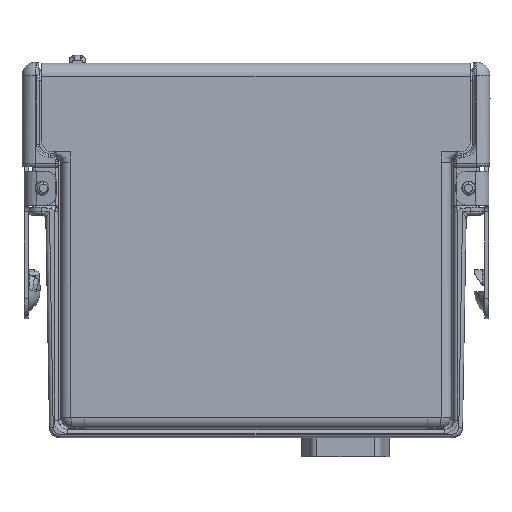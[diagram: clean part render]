
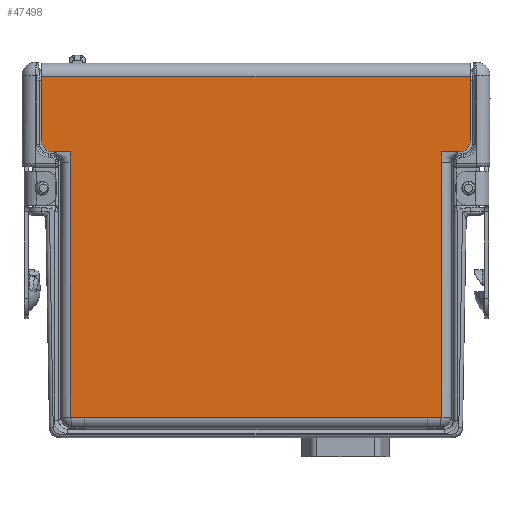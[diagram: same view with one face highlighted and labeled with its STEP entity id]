
A CAD part, left-side view. The second image highlights one B-rep face of the part: STEP entity #47498.
In plain terms, the highlighted planar face has unit normal (-1, 0, 0).
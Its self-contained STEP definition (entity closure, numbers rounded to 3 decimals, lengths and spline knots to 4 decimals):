
#45321=DIRECTION('',(0.,0.,-1.));
#45322=VECTOR('',#45321,0.476);
#45323=CARTESIAN_POINT('',(-0.4475,1.5895,2.676));
#45324=LINE('',#45323,#45322);
#45325=DIRECTION('',(0.,0.,1.));
#45326=VECTOR('',#45325,0.476);
#45327=CARTESIAN_POINT('',(-0.4475,-1.5895,2.2));
#45328=LINE('',#45327,#45326);
#45329=DIRECTION('',(0.,0.,-1.));
#45330=VECTOR('',#45329,0.079);
#45331=CARTESIAN_POINT('',(-0.4475,-1.3765,2.12));
#45332=LINE('',#45331,#45330);
#45333=DIRECTION('',(0.,1.,0.));
#45334=VECTOR('',#45333,0.105);
#45335=CARTESIAN_POINT('',(-0.4475,-1.3765,0.146));
#45336=LINE('',#45335,#45334);
#45337=DIRECTION('',(0.,1.,0.));
#45338=VECTOR('',#45337,0.105);
#45339=CARTESIAN_POINT('',(-0.4475,1.2715,0.146));
#45340=LINE('',#45339,#45338);
#45341=DIRECTION('',(0.,0.,1.));
#45342=VECTOR('',#45341,0.079);
#45343=CARTESIAN_POINT('',(-0.4475,1.3765,2.041));
#45344=LINE('',#45343,#45342);
#45565=DIRECTION('',(0.,-1.,0.));
#45566=VECTOR('',#45565,0.133);
#45567=CARTESIAN_POINT('',(-0.4475,1.5095,2.12));
#45568=LINE('',#45567,#45566);
#45585=DIRECTION('',(0.,-1.,0.));
#45586=VECTOR('',#45585,0.133);
#45587=CARTESIAN_POINT('',(-0.4475,-1.3765,2.12));
#45588=LINE('',#45587,#45586);
#45738=DIRECTION('',(0.,-1.,0.));
#45739=VECTOR('',#45738,3.179);
#45740=CARTESIAN_POINT('',(-0.4475,1.5895,2.676));
#45741=LINE('',#45740,#45739);
#45841=DIRECTION('',(0.,-1.,0.));
#45842=VECTOR('',#45841,2.543);
#45843=CARTESIAN_POINT('',(-0.4475,1.2715,0.146));
#45844=LINE('',#45843,#45842);
#45873=DIRECTION('',(0.,0.,1.));
#45874=VECTOR('',#45873,1.895);
#45875=CARTESIAN_POINT('',(-0.4475,-1.3765,0.146));
#45876=LINE('',#45875,#45874);
#45947=DIRECTION('',(0.,0.,1.));
#45948=VECTOR('',#45947,1.895);
#45949=CARTESIAN_POINT('',(-0.4475,1.3765,0.146));
#45950=LINE('',#45949,#45948);
#46214=CARTESIAN_POINT('',(-0.4475,1.5095,2.2));
#46215=DIRECTION('',(-1.,0.,0.));
#46216=DIRECTION('',(0.,1.,0.));
#46217=AXIS2_PLACEMENT_3D('',#46214,#46215,#46216);
#46232=CARTESIAN_POINT('',(-0.4475,-1.5095,2.2));
#46233=DIRECTION('',(-1.,0.,0.));
#46234=DIRECTION('',(0.,0.,-1.));
#46235=AXIS2_PLACEMENT_3D('',#46232,#46233,#46234);
#47059=CARTESIAN_POINT('',(-0.4475,-1.5895,2.676));
#47060=VERTEX_POINT('',#47059);
#47061=CARTESIAN_POINT('',(-0.4475,1.5895,2.676));
#47062=VERTEX_POINT('',#47061);
#47091=CARTESIAN_POINT('',(-0.4475,1.2715,0.146));
#47092=CARTESIAN_POINT('',(-0.4475,-1.2715,0.146));
#47093=VERTEX_POINT('',#47091);
#47094=VERTEX_POINT('',#47092);
#47103=CARTESIAN_POINT('',(-0.4475,-1.3765,0.146));
#47104=VERTEX_POINT('',#47103);
#47115=CARTESIAN_POINT('',(-0.4475,1.3765,0.146));
#47116=VERTEX_POINT('',#47115);
#47172=CARTESIAN_POINT('',(-0.4475,1.5095,2.12));
#47174=VERTEX_POINT('',#47172);
#47177=CARTESIAN_POINT('',(-0.4475,1.5895,2.2));
#47178=VERTEX_POINT('',#47177);
#47180=CARTESIAN_POINT('',(-0.4475,-1.5895,2.2));
#47182=VERTEX_POINT('',#47180);
#47185=CARTESIAN_POINT('',(-0.4475,-1.5095,2.12));
#47186=VERTEX_POINT('',#47185);
#47223=CARTESIAN_POINT('',(-0.4475,-1.3765,2.041));
#47224=VERTEX_POINT('',#47223);
#47227=CARTESIAN_POINT('',(-0.4475,-1.3765,2.12));
#47228=VERTEX_POINT('',#47227);
#47273=CARTESIAN_POINT('',(-0.4475,1.3765,2.041));
#47274=CARTESIAN_POINT('',(-0.4475,1.3765,2.12));
#47275=VERTEX_POINT('',#47273);
#47276=VERTEX_POINT('',#47274);
#47463=CARTESIAN_POINT('',(-0.4475,0.,1.421));
#47464=DIRECTION('',(-1.,0.,0.));
#47465=DIRECTION('',(0.,1.,0.));
#47466=AXIS2_PLACEMENT_3D('',#47463,#47464,#47465);
#47467=PLANE('',#47466);
#47469=ORIENTED_EDGE('',*,*,#47468,.F.);
#47471=ORIENTED_EDGE('',*,*,#47470,.F.);
#47473=ORIENTED_EDGE('',*,*,#47472,.T.);
#47475=ORIENTED_EDGE('',*,*,#47474,.F.);
#47477=ORIENTED_EDGE('',*,*,#47476,.F.);
#47479=ORIENTED_EDGE('',*,*,#47478,.F.);
#47481=ORIENTED_EDGE('',*,*,#47480,.T.);
#47483=ORIENTED_EDGE('',*,*,#47482,.F.);
#47485=ORIENTED_EDGE('',*,*,#47484,.T.);
#47487=ORIENTED_EDGE('',*,*,#47486,.F.);
#47489=ORIENTED_EDGE('',*,*,#47488,.T.);
#47491=ORIENTED_EDGE('',*,*,#47490,.T.);
#47493=ORIENTED_EDGE('',*,*,#47492,.T.);
#47495=ORIENTED_EDGE('',*,*,#47494,.F.);
#47496=EDGE_LOOP('',(#47469,#47471,#47473,#47475,#47477,#47479,#47481,#47483,
#47485,#47487,#47489,#47491,#47493,#47495));
#47497=FACE_OUTER_BOUND('',#47496,.F.);
#47498=ADVANCED_FACE('',(#47497),#47467,.T.);
#46218=CIRCLE('',#46217,0.08);
#46236=CIRCLE('',#46235,0.08);
#47468=EDGE_CURVE('',#47178,#47174,#46218,.T.);
#47470=EDGE_CURVE('',#47062,#47178,#45324,.T.);
#47472=EDGE_CURVE('',#47062,#47060,#45741,.T.);
#47474=EDGE_CURVE('',#47182,#47060,#45328,.T.);
#47476=EDGE_CURVE('',#47186,#47182,#46236,.T.);
#47478=EDGE_CURVE('',#47228,#47186,#45588,.T.);
#47480=EDGE_CURVE('',#47228,#47224,#45332,.T.);
#47482=EDGE_CURVE('',#47104,#47224,#45876,.T.);
#47484=EDGE_CURVE('',#47104,#47094,#45336,.T.);
#47486=EDGE_CURVE('',#47093,#47094,#45844,.T.);
#47488=EDGE_CURVE('',#47093,#47116,#45340,.T.);
#47490=EDGE_CURVE('',#47116,#47275,#45950,.T.);
#47492=EDGE_CURVE('',#47275,#47276,#45344,.T.);
#47494=EDGE_CURVE('',#47174,#47276,#45568,.T.);
